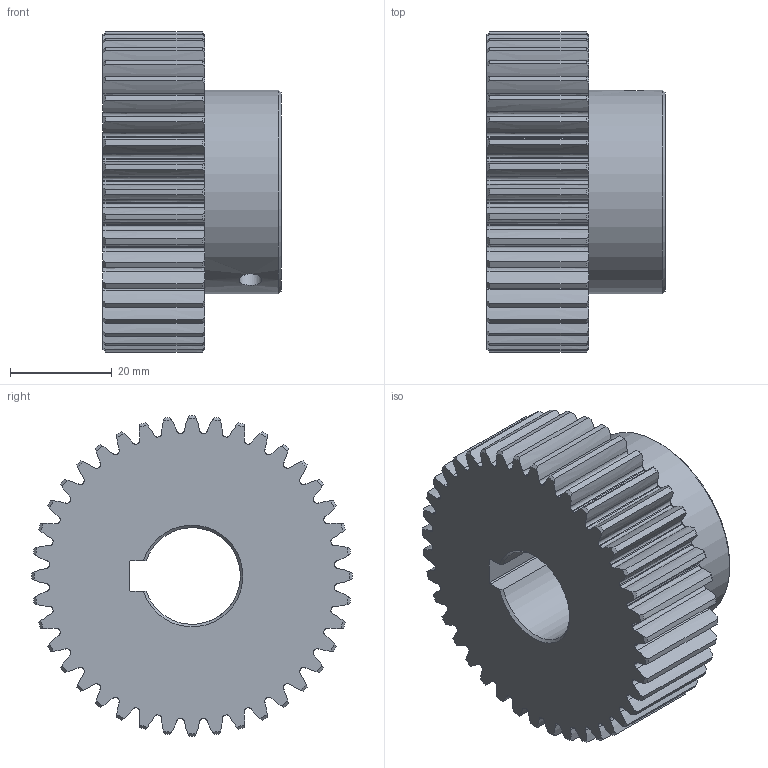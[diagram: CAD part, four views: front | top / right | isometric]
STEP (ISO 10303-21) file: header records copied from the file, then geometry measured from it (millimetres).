
FILE_DESCRIPTION(('STEP AP214'), '1');
FILE_NAME('GS1,5-T40D19 - Øåñòåðíÿ', '2018-02-16T11:07:09', (''), (''), 'ASCON STEP Converter 1.3', 'ASCON Math Kernel', '');
FILE_SCHEMA(('AUTOMOTIVE_DESIGN { 1 0 10303 214 3 1 1}'));
Length unit declared in the file: millimetre
Products named in the file (1): GS1,5-T40D19
Bounding box: 35 x 63 x 63 mm (x, y, z)
Volume: 64155.8 mm3; surface area: 16639.1 mm2
Topology: 1 solids, 1 shells, 335 faces, 995 edges, 663 vertices
Faces by surface type: extrusion 160, cylinder 86, cone 83, plane 6
Full cylindrical faces by diameter (mm): 4.459 x2, 40 x1
Entity records: 17537 total; most frequent: CARTESIAN_POINT 6359, ORIENTED_EDGE 1982, DIRECTION 1276, EDGE_CURVE 991, VERTEX_POINT 663, B_SPLINE_CURVE_WITH_KNOTS 647, AXIS2_PLACEMENT_3D 432, VECTOR 412
